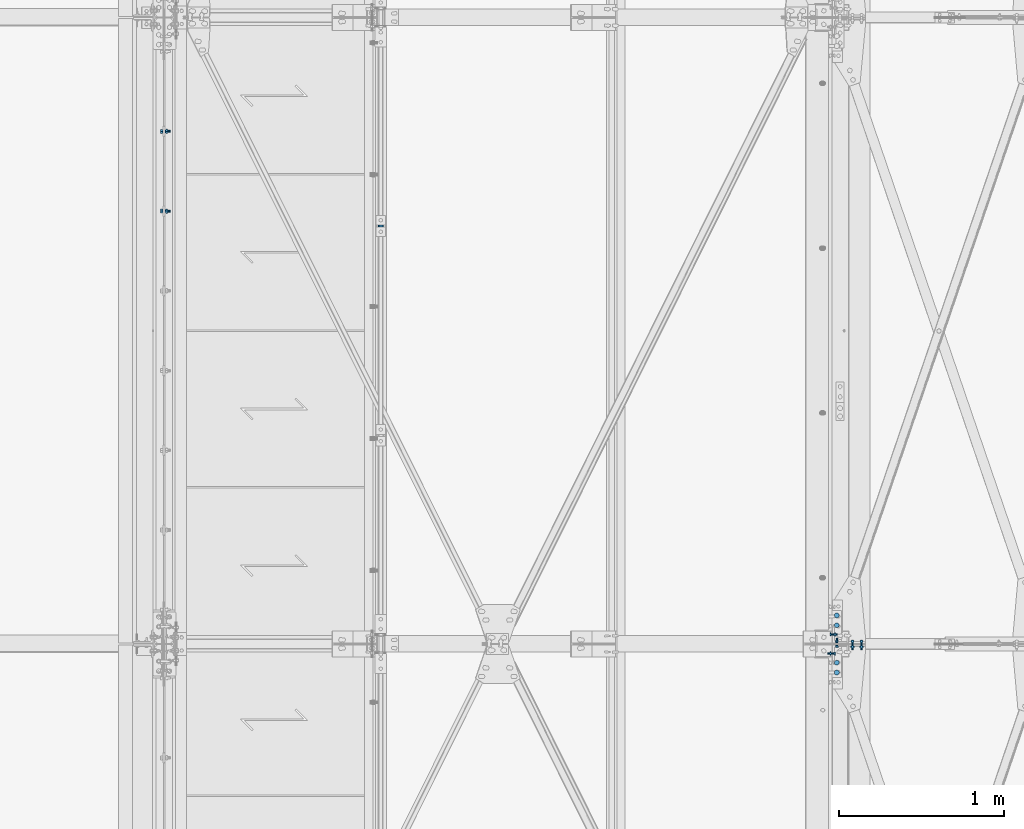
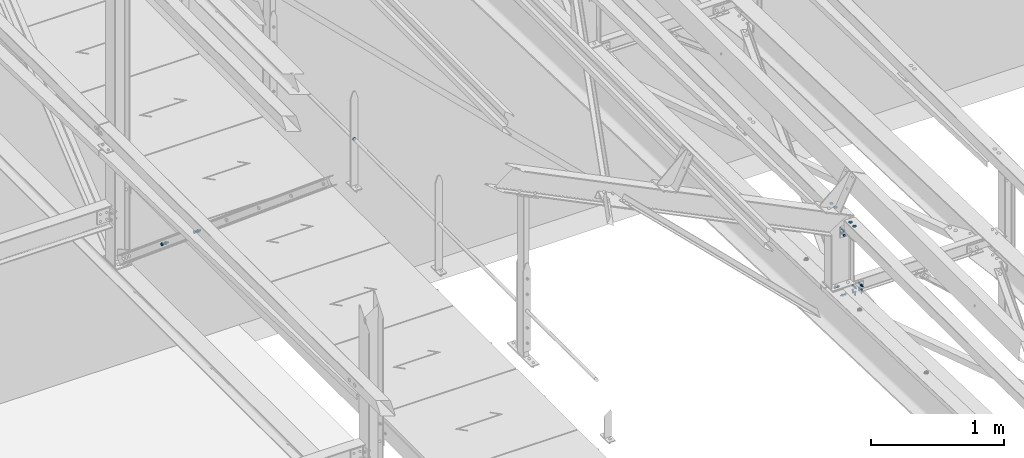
# One storey, part 321 of 362: 10 mechanical fasteners.
"""IFC2X3 building model written with IfcOpenShell, lengths in millimetres."""

from ifc_helpers import new_model, si_unit, frame, origin_with_axes, origin_2d_with_axis, place, context, subcontext, project, spatial, polyline, circle, outline, extrude, source, transform, mapped, material, type_object, element, save


model = new_model("IFC2X3")

# Units and contexts
model_context = context("Model", 3, precision=1e-05, world=origin_with_axes())
body_context = subcontext(model_context, "Body", "Model", "MODEL_VIEW")
ifc_project = project(units=[si_unit("LENGTHUNIT", "METRE", prefix="MILLI"), si_unit("AREAUNIT", "SQUARE_METRE"), si_unit("VOLUMEUNIT", "CUBIC_METRE"), si_unit("MASSUNIT", "GRAM", prefix="KILO"), si_unit("TIMEUNIT", "SECOND"), si_unit("PLANEANGLEUNIT", "RADIAN"), si_unit("SOLIDANGLEUNIT", "STERADIAN"), si_unit("THERMODYNAMICTEMPERATUREUNIT", "DEGREE_CELSIUS"), si_unit("LUMINOUSINTENSITYUNIT", "LUMEN")], contexts=[model_context])

# Site, building, storey
site_placement = place(None, origin_with_axes())
site = spatial("IfcSite", under=ifc_project, at=site_placement, Name="Undefined", CompositionType="ELEMENT")
building_placement = place(site_placement, origin_with_axes())
building = spatial("IfcBuilding", under=site, at=building_placement, Name="Undefined", CompositionType="ELEMENT")
storey_placement = place(building_placement, origin_with_axes())
storey = spatial("IfcBuildingStorey", under=building, at=storey_placement, Name="Undefined", CompositionType="ELEMENT", Elevation=0.0)

# Mechanical fasteners
ifc_material_1 = material(Name="6.8")
mechanical_fastener_type = type_object("IfcMechanicalFastenerType", Name="Bolt assembly")
shared_shape_1 = source(origin_with_axes(), body_context, "Body", "SweptSolid", [
    extrude(circle(Radius=15.0, at=origin_2d_with_axis()), frame((0.0, 0.0, 0.0), z_axis=(0.0, 1.0, 0.0), x_axis=(1.0, 0.0, 0.0)), (0.0, 0.0, 1.0), 4.1),
])
for number, where, z_axis, x_axis, name in (
    (1, (38360.0, 3973.5, 8550.0), (1.0, 0.0, 0.0), (0.0, -1.0, 0.0), "Bolt assembly"),
    (2, (38360.0, 3626.5, 8550.0), (-1.0, 0.0, 0.0), (0.0, 1.0, 0.0), "Bolt assembly"),
):
    element("IfcMechanicalFastener", number, at=place(storey_placement, frame(where, z_axis=z_axis, x_axis=x_axis)), inside=storey, type_object=mechanical_fastener_type, material=ifc_material_1, Name=name, NominalDiameter=30.0, NominalLength=4.0, context=body_context, shape_type="MappedRepresentation", body=[
        mapped(shared_shape_1, transform((0.0, 0.0, 0.0))),
        mapped(shared_shape_1, transform((60.0, 0.0, 0.0))),
    ])
ifc_material_2 = material(Name="8.8-SB-ZINGUE")
shared_shape_2 = source(origin_with_axes(), body_context, "Body", "SweptSolid", [
    extrude(circle(Radius=9.0, at=origin_2d_with_axis()), frame((0.0, -10.9000000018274, 0.0), z_axis=(0.0, 1.0, 0.0), x_axis=(1.0, 0.0, 0.0)), (0.0, 0.0, 1.0), 6.0),
    extrude(circle(Radius=9.0, at=origin_2d_with_axis()), frame((0.0, 4.9000000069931, 0.0), z_axis=(0.0, 1.0, 0.0), x_axis=(1.0, 0.0, 0.0)), (0.0, 0.0, 1.0), 6.1),
    extrude(circle(Radius=9.0, at=origin_2d_with_axis()), frame((0.0, -3.99999923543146, 0.0), z_axis=(0.0, 1.0, 0.0), x_axis=(1.0, 0.0, 0.0)), (0.0, 0.0, 1.0), 8.0),
    extrude(outline(polyline([(13.85640646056, 0.0), (6.92820323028, 12.0000000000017), (-6.92820323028, 12.0000000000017), (-13.85640646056, 0.0), (-6.92820323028, -12.0000000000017), (6.92820323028, -12.0000000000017), (13.85640646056, 0.0)])), frame((0.0, -21.5600000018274, 0.0), z_axis=(0.0, 1.0, 0.0), x_axis=(1.0, 0.0, 0.0)), (0.0, 0.0, 1.0), 10.56),
    extrude(circle(Radius=8.0, at=origin_2d_with_axis()), frame((0.0, -11.0000000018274, 0.0), z_axis=(0.0, 1.0, 0.0), x_axis=(1.0, 0.0, 0.0)), (0.0, 0.0, 1.0), 50.0),
    extrude(outline(polyline([(15.3344231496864, 0.0), (7.6672115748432, 13.2800000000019), (-7.6672115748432, 13.2800000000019), (-15.3344231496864, 0.0), (-7.6672115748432, -13.2800000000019), (7.6672115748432, -13.2800000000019), (15.3344231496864, 0.0)])), frame((0.0, 11.0000000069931, 0.0), z_axis=(0.0, 1.0, 0.0), x_axis=(1.0, 0.0, 0.0)), (0.0, 0.0, 1.0), 10.56),
])
for number, where, z_axis, x_axis, name in (
    (3, (34280.0, 6425.46438549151, 8230.73723889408), (0.0, 1.0, 0.0), (0.0, 0.0, 1.0), "Bolt assembly"),
    (4, (34280.0, 6909.10730875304, 7826.89539797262), (0.0, 1.0, 0.0), (0.0, 0.0, 1.0), "Bolt assembly"),
):
    element("IfcMechanicalFastener", number, at=place(storey_placement, frame(where, z_axis=z_axis, x_axis=x_axis)), inside=storey, type_object=mechanical_fastener_type, material=ifc_material_2, Name=name, NominalDiameter=16.0, NominalLength=50.0, context=body_context, shape_type="MappedRepresentation", body=[
        mapped(shared_shape_2, transform((0.0, 0.0, 0.0))),
    ])
shared_shape_3 = source(origin_with_axes(), body_context, "Body", "SweptSolid", [
    extrude(circle(Radius=14.0, at=origin_2d_with_axis()), frame((0.0, -5.00000000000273, 0.0), z_axis=(0.0, 1.0, 0.0), x_axis=(1.0, 0.0, 0.0)), (0.0, 0.0, 1.0), 10.1),
])
mechanical_fastener_1_placement = place(storey_placement, frame((35593.9917161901, 6335.0034325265, 8673.80000293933), z_axis=(0.0, 0.0, 1.0), x_axis=(-1.0, 0.0, 0.0)))
element("IfcMechanicalFastener", 5, at=mechanical_fastener_1_placement, inside=storey, type_object=mechanical_fastener_type, material=ifc_material_1, Name="Bolt assembly", NominalDiameter=27.0, NominalLength=10.0, context=body_context, shape_type="MappedRepresentation", body=[
    mapped(shared_shape_3, transform((0.0, 0.0, 0.0))),
])
shared_shape_4 = source(origin_with_axes(), body_context, "Body", "SweptSolid", [
    extrude(circle(Radius=7.0, at=origin_2d_with_axis()), frame((0.0, -2.80010483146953, 0.0), z_axis=(0.0, 1.0, 0.0), x_axis=(1.0, 0.0, 0.0)), (0.0, 0.0, 1.0), 5.6),
    extrude(circle(Radius=7.0, at=origin_2d_with_axis()), frame((0.0, 3.3998951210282, 0.0), z_axis=(0.0, 1.0, 0.0), x_axis=(1.0, 0.0, 0.0)), (0.0, 0.0, 1.0), 10.1),
    extrude(circle(Radius=7.0, at=origin_2d_with_axis()), frame((0.0, -13.4001048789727, 0.0), z_axis=(0.0, 1.0, 0.0), x_axis=(1.0, 0.0, 0.0)), (0.0, 0.0, 1.0), 10.0),
    extrude(outline(polyline([(10.39230484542, 0.0), (5.19615242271, 9.00000000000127), (-5.19615242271, 9.00000000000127), (-10.39230484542, 0.0), (-5.19615242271, -9.00000000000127), (5.19615242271, -9.00000000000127), (10.39230484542, 0.0)])), frame((0.0, -21.4201048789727, 0.0), z_axis=(0.0, 1.0, 0.0), x_axis=(1.0, 0.0, 0.0)), (0.0, 0.0, 1.0), 7.92),
    extrude(circle(Radius=6.0, at=origin_2d_with_axis()), frame((0.0, -13.5000574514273, 0.0), z_axis=(0.0, 1.0, 0.0), x_axis=(1.0, 0.0, 0.0)), (0.0, 0.0, 1.0), 50.0),
    extrude(outline(polyline([(11.5008173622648, 0.0), (5.7504086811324, 9.96000000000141), (-5.7504086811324, 9.96000000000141), (-11.5008173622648, 0.0), (-5.7504086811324, -9.96000000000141), (5.7504086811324, -9.96000000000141), (11.5008173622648, 0.0)])), frame((0.0, 13.4998951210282, 0.0), z_axis=(0.0, 1.0, 0.0), x_axis=(1.0, 0.0, 0.0)), (0.0, 0.0, 1.0), 7.92),
])
mechanical_fastener_2_placement = place(storey_placement, frame((38360.0, 3800.00010487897, 8370.0), z_axis=(-1.0, 0.0, 0.0), x_axis=(0.0, 0.0, 1.0)))
element("IfcMechanicalFastener", 6, at=mechanical_fastener_2_placement, inside=storey, type_object=mechanical_fastener_type, material=ifc_material_2, Name="Bolt assembly", NominalDiameter=12.0, NominalLength=50.0, context=body_context, shape_type="MappedRepresentation", body=[
    mapped(shared_shape_4, transform((0.0, 0.0, 0.0))),
    mapped(shared_shape_4, transform((40.0, 0.0, 0.0))),
])
shared_shape_5 = source(origin_with_axes(), body_context, "Body", "SweptSolid", [
    extrude(circle(Radius=6.0, at=origin_2d_with_axis()), frame((0.0, -6.20005331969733, 0.0), z_axis=(0.0, 1.0, 0.0), x_axis=(1.0, 0.0, 0.0)), (0.0, 0.0, 1.0), 6.3),
    extrude(circle(Radius=6.0, at=origin_2d_with_axis()), frame((0.0, -0.10007666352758, 0.0), z_axis=(0.0, 1.0, 0.0), x_axis=(1.0, 0.0, 0.0)), (0.0, 0.0, 1.0), 6.1),
    extrude(outline(polyline([(9.81495457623, 0.0), (4.907477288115, 8.5000000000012), (-4.907477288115, 8.5000000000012), (-9.81495457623, 0.0), (-4.907477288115, -8.5000000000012), (4.907477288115, -8.5000000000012), (9.81495457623, 0.0)])), frame((0.0, -13.8000533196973, 0.0), z_axis=(0.0, 1.0, 0.0), x_axis=(1.0, 0.0, 0.0)), (0.0, 0.0, 1.0), 7.5),
    extrude(circle(Radius=5.0, at=origin_2d_with_axis()), frame((0.0, -6.30005331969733, 0.0), z_axis=(0.0, 1.0, 0.0), x_axis=(1.0, 0.0, 0.0)), (0.0, 0.0, 1.0), 30.0),
    extrude(outline(polyline([(9.23760430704, 0.0), (4.61880215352, 8.00000000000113), (-4.61880215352, 8.00000000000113), (-9.23760430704, 0.0), (-4.61880215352, -8.00000000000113), (4.61880215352, -8.00000000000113), (9.23760430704, 0.0)])), frame((0.0, 5.99989660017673, 0.0), z_axis=(0.0, 1.0, 0.0), x_axis=(1.0, 0.0, 0.0)), (0.0, 0.0, 1.0), 8.4),
])
mechanical_fastener_3_placement = place(storey_placement, frame((38510.0, 3798.11577141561, 7810.58010700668), z_axis=(0.0, -0.999506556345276, 0.031410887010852), x_axis=(-1.0, 0.0, 0.0)))
element("IfcMechanicalFastener", 7, at=mechanical_fastener_3_placement, inside=storey, type_object=mechanical_fastener_type, material=ifc_material_1, Name="Bolt assembly", NominalDiameter=10.0, NominalLength=30.0, context=body_context, shape_type="MappedRepresentation", body=[
    mapped(shared_shape_5, transform((0.0, 3.18323145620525e-11, -16.9999999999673))),
    mapped(shared_shape_5, transform((55.0, 8.18545231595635e-12, -16.9999999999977))),
    mapped(shared_shape_5, transform((0.0, -3.18323145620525e-11, 16.9999999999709))),
    mapped(shared_shape_5, transform((55.0, -7.27595761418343e-12, 16.9999999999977))),
])
shared_shape_6 = source(origin_with_axes(), body_context, "Body", "SweptSolid", [
    extrude(circle(Radius=7.0, at=origin_2d_with_axis()), frame((0.0, -2.20000854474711, 0.0), z_axis=(0.0, 1.0, 0.0), x_axis=(1.0, 0.0, 0.0)), (0.0, 0.0, 1.0), 4.4),
    extrude(circle(Radius=7.0, at=origin_2d_with_axis()), frame((0.0, 2.90000527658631, 0.0), z_axis=(0.0, 1.0, 0.0), x_axis=(1.0, 0.0, 0.0)), (0.0, 0.0, 1.0), 10.1),
    extrude(circle(Radius=7.0, at=origin_2d_with_axis()), frame((0.0, -12.9008585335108, 0.0), z_axis=(0.0, 1.0, 0.0), x_axis=(1.0, 0.0, 0.0)), (0.0, 0.0, 1.0), 10.0),
    extrude(outline(polyline([(10.39230484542, 0.0), (5.19615242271, 9.00000000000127), (-5.19615242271, 9.00000000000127), (-10.39230484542, 0.0), (-5.19615242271, -9.00000000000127), (5.19615242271, -9.00000000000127), (10.39230484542, 0.0)])), frame((0.0, -20.9208585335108, 0.0), z_axis=(0.0, 1.0, 0.0), x_axis=(1.0, 0.0, 0.0)), (0.0, 0.0, 1.0), 7.92),
    extrude(circle(Radius=6.0, at=origin_2d_with_axis()), frame((0.0, -13.0008585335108, 0.0), z_axis=(0.0, 1.0, 0.0), x_axis=(1.0, 0.0, 0.0)), (0.0, 0.0, 1.0), 50.0),
    extrude(outline(polyline([(11.5008173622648, 0.0), (5.7504086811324, 9.96000000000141), (-5.7504086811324, 9.96000000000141), (-11.5008173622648, 0.0), (-5.7504086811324, -9.96000000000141), (5.7504086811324, -9.96000000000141), (11.5008173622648, 0.0)])), frame((0.0, 13.0000006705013, 0.0), z_axis=(0.0, 1.0, 0.0), x_axis=(1.0, 0.0, 0.0)), (0.0, 0.0, 1.0), 7.92),
])
mechanical_fastener_4_placement = place(storey_placement, frame((38510.0, 3799.68588329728, 7860.55548039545), z_axis=(7.58071938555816e-11, 0.0314107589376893, 0.999506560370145), x_axis=(-1.0, 0.0, 0.0)))
element("IfcMechanicalFastener", 8, at=mechanical_fastener_4_placement, inside=storey, type_object=mechanical_fastener_type, material=ifc_material_2, Name="Bolt assembly", NominalDiameter=12.0, NominalLength=50.0, context=body_context, shape_type="MappedRepresentation", body=[
    mapped(shared_shape_6, transform((0.0, 0.0, 0.0))),
    mapped(shared_shape_6, transform((55.0000000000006, -1.81898940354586e-10, 0.0))),
])
shared_shape_7 = source(origin_with_axes(), body_context, "Body", "SweptSolid", [
    extrude(circle(Radius=7.0, at=origin_2d_with_axis()), frame((0.0, -4.59999980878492, 0.0), z_axis=(0.0, 1.0, 0.0), x_axis=(1.0, 0.0, 0.0)), (0.0, 0.0, 1.0), 9.4),
    extrude(circle(Radius=7.0, at=origin_2d_with_axis()), frame((0.0, 4.9000000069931, 0.0), z_axis=(0.0, 1.0, 0.0), x_axis=(1.0, 0.0, 0.0)), (0.0, 0.0, 1.0), 10.1),
    extrude(outline(polyline([(10.39230484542, 0.0), (5.19615242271, 9.00000000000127), (-5.19615242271, 9.00000000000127), (-10.39230484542, 0.0), (-5.19615242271, -9.00000000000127), (5.19615242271, -9.00000000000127), (10.39230484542, 0.0)])), frame((0.0, -12.6199998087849, 0.0), z_axis=(0.0, 1.0, 0.0), x_axis=(1.0, 0.0, 0.0)), (0.0, 0.0, 1.0), 7.92),
    extrude(circle(Radius=6.0, at=origin_2d_with_axis()), frame((0.0, -4.69999899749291, 0.0), z_axis=(0.0, 1.0, 0.0), x_axis=(1.0, 0.0, 0.0)), (0.0, 0.0, 1.0), 40.0),
    extrude(outline(polyline([(11.5008173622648, 0.0), (5.7504086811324, 9.96000000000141), (-5.7504086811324, 9.96000000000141), (-11.5008173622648, 0.0), (-5.7504086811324, -9.96000000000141), (5.7504086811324, -9.96000000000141), (11.5008173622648, 0.0)])), frame((0.0, 15.0000000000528, 0.0), z_axis=(0.0, 1.0, 0.0), x_axis=(1.0, 0.0, 0.0)), (0.0, 0.0, 1.0), 7.92),
])
mechanical_fastener_5_placement = place(storey_placement, frame((38330.0, 3857.65812008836, 7858.73357169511), z_axis=(7.58071938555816e-11, 0.0314107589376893, 0.999506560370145), x_axis=(0.0, -0.999506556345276, 0.031410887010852)))
element("IfcMechanicalFastener", 9, at=mechanical_fastener_5_placement, inside=storey, type_object=mechanical_fastener_type, material=ifc_material_2, Name="Bolt assembly", NominalDiameter=12.0, NominalLength=40.0, context=body_context, shape_type="MappedRepresentation", body=[
    mapped(shared_shape_7, transform((0.0, 0.0, 0.0))),
])
shared_shape_8 = source(origin_with_axes(), body_context, "Body", "SweptSolid", [
    extrude(circle(Radius=7.0, at=origin_2d_with_axis()), frame((0.0, -4.79999988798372, 0.0), z_axis=(0.0, 1.0, 0.0), x_axis=(1.0, 0.0, 0.0)), (0.0, 0.0, 1.0), 9.5),
    extrude(circle(Radius=7.0, at=origin_2d_with_axis()), frame((0.0, -14.899999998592, 0.0), z_axis=(0.0, 1.0, 0.0), x_axis=(1.0, 0.0, 0.0)), (0.0, 0.0, 1.0), 10.0),
    extrude(outline(polyline([(10.39230484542, 0.0), (5.19615242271, 9.00000000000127), (-5.19615242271, 9.00000000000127), (-10.39230484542, 0.0), (-5.19615242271, -9.00000000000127), (5.19615242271, -9.00000000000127), (10.39230484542, 0.0)])), frame((0.0, -22.919999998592, 0.0), z_axis=(0.0, 1.0, 0.0), x_axis=(1.0, 0.0, 0.0)), (0.0, 0.0, 1.0), 7.92),
    extrude(circle(Radius=6.0, at=origin_2d_with_axis()), frame((0.0, -14.999999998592, 0.0), z_axis=(0.0, 1.0, 0.0), x_axis=(1.0, 0.0, 0.0)), (0.0, 0.0, 1.0), 40.0),
    extrude(outline(polyline([(11.5008173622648, 0.0), (5.7504086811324, 9.96000000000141), (-5.7504086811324, 9.96000000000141), (-11.5008173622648, 0.0), (-5.7504086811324, -9.96000000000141), (5.7504086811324, -9.96000000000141), (11.5008173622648, 0.0)])), frame((0.0, 4.69999973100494, 0.0), z_axis=(0.0, 1.0, 0.0), x_axis=(1.0, 0.0, 0.0)), (0.0, 0.0, 1.0), 7.92),
])
mechanical_fastener_6_placement = place(storey_placement, frame((38330.0, 3741.714501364, 7862.37737771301), z_axis=(7.58071938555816e-11, 0.0314107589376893, 0.999506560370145), x_axis=(3.14103090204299e-11, 0.999506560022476, -0.0314107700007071)))
element("IfcMechanicalFastener", 10, at=mechanical_fastener_6_placement, inside=storey, type_object=mechanical_fastener_type, material=ifc_material_2, Name="Bolt assembly", NominalDiameter=12.0, NominalLength=40.0, context=body_context, shape_type="MappedRepresentation", body=[
    mapped(shared_shape_8, transform((0.0, 0.0, 0.0))),
])

save(model, "model.ifc")
